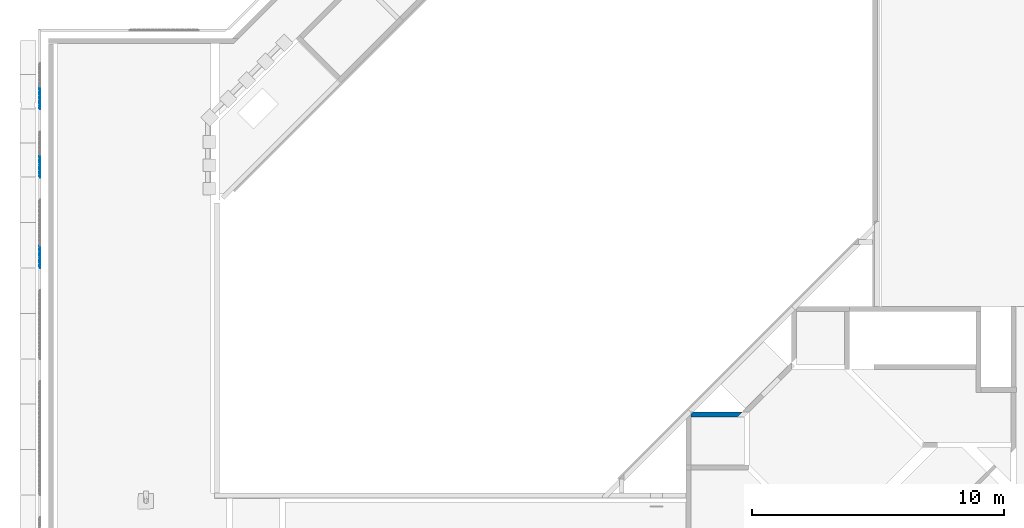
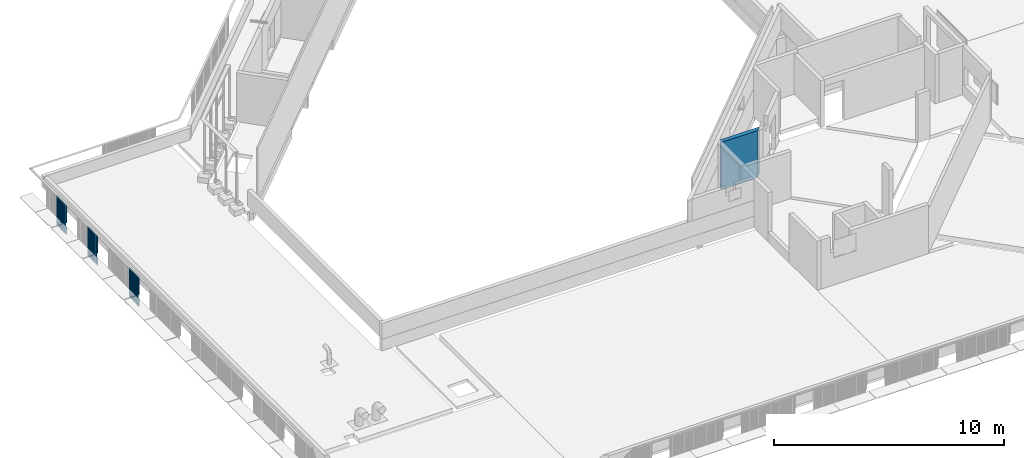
# One storey, part 24 of 37: 4 walls.
"""IFC4X3_ADD2 building model written with IfcOpenShell, lengths in millimetres."""

from ifc_helpers import new_model, si_unit, direction, frame, origin_with_axes, place, context, subcontext, project, spatial, polygons, element, save


model = new_model("IFC4X3_ADD2")

# Units and contexts
model_context = context("Model", 3, precision=1e-05, world=origin_with_axes(), true_north=direction((0.0, 1.0)))
body_context = subcontext(model_context, "Body", "Model", "MODEL_VIEW")
ifc_project = project(units=[si_unit("LENGTHUNIT", "METRE", prefix="MILLI"), si_unit("AREAUNIT", "SQUARE_METRE"), si_unit("VOLUMEUNIT", "CUBIC_METRE"), si_unit("PLANEANGLEUNIT", "RADIAN"), si_unit("TIMEUNIT", "SECOND"), si_unit("MASSUNIT", "GRAM")], contexts=[model_context])

# Site, building, storey
site_placement = place(None, origin_with_axes())
site = spatial("IfcSite", under=ifc_project, at=site_placement, Name="Site", CompositionType="ELEMENT")
building_placement = place(site_placement, origin_with_axes())
building = spatial("IfcBuilding", under=site, at=building_placement, Name="IFC Building Story")
storey_placement = place(building_placement, frame((0.0, 0.0, 14400.0), z_axis=(0.0, 0.0, 1.0), x_axis=(1.0, 0.0, 0.0)))
storey = spatial("IfcBuildingStorey", under=building, at=storey_placement, Name="040", Elevation=14400.0)

# Walls
wall_1_placement = place(storey_placement, frame((0.0, 0.0, -14400.0), z_axis=(0.0, 0.0, 1.0), x_axis=(1.0, 0.0, 0.0)))
element("IfcWall", 1, at=wall_1_placement, inside=storey, Name="Basic Wall:BB_XX_Wand uit beton, 200 mm", ObjectType="Basic Wall:BB_XX_Wand uit beton, 200 mm", PredefinedType="SOLIDWALL", context=body_context, shape_type="Tessellation", body=[
    polygons([(-19900.0, 15715.0, 14200.0), (-18068.70057685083, 15715.0, 14200.0), (-18068.70057685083, 15715.0, 14800.0), (-18068.70057685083, 15715.0, 16700.0), (-19900.0, 15715.0, 16700.0), (-17868.70057685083, 15915.0, 14200.0), (-19820.94776063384, 15915.0, 14200.0), (-19820.94776063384, 15915.0, 16700.0), (-17868.70057685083, 15915.0, 16700.0), (-19900.0, 15835.94776063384, 14200.0), (-19900.0, 15835.94776063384, 16700.0)], [[[3, 4, 5]], [[3, 5, 1]], [[1, 2, 3]], [[6, 7, 8, 9]], [[2, 1, 10]], [[2, 10, 7]], [[2, 7, 6]], [[10, 1, 5, 11]], [[5, 4, 9]], [[5, 9, 8]], [[5, 8, 11]], [[7, 10, 11, 8]], [[3, 2, 6]], [[6, 9, 4]], [[6, 4, 3]]]),
])
wall_2_placement = place(storey_placement, frame((0.0, 0.0, -14400.0), z_axis=(0.0, 0.0, 1.0), x_axis=(1.0, 0.0, 0.0)))
element("IfcWall", 2, at=wall_2_placement, inside=storey, Name="BB_07.10_Gevelbekleding_PuntProfiel, 900 mm, console rechts_GMO:900 x 1600 mm", ObjectType="BB_07.10_Gevelbekleding_PuntProfiel, 900 mm, console rechts_GMO:900 x 1600 mm", PredefinedType="NOTDEFINED", context=body_context, shape_type="Tessellation", body=[
    polygons([(-45734.99999999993, 21690.00000000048, 14060.0), (-45733.58578643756, 21690.00000000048, 14060.0), (-45748.58578643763, 21675.00000000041, 14060.0), (-45715.0, 21641.41421356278, 14060.0), (-45715.0, 21618.5857864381, 14060.0), (-45716.0, 21619.00000000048, 14060.0), (-45716.0, 21641.0000000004, 14060.0), (-45750.0, 21675.00000000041, 14060.0), (-45734.99999999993, 21690.00000000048, 13860.0), (-45733.58578643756, 21690.00000000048, 13860.0), (-45750.0, 21675.00000000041, 13860.0), (-45716.0, 21641.0000000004, 13860.0), (-45716.0, 21619.00000000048, 13860.0), (-45715.0, 21618.5857864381, 13860.0), (-45715.0, 21641.41421356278, 13860.0), (-45748.58578643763, 21675.00000000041, 13860.0), (-45716.0, 22451.00000000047, 15040.0), (-45716.0, 22429.00000000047, 15040.0), (-45750.0, 22395.00000000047, 15040.0), (-45716.0, 22361.00000000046, 15040.0), (-45716.0, 22339.00000000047, 15040.0), (-45750.0, 22305.00000000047, 15040.0), (-45716.0, 22271.00000000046, 15040.0), (-45716.0, 22249.00000000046, 15040.0), (-45750.00000000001, 22215.00000000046, 15040.0), (-45716.0, 22181.00000000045, 15040.0), (-45716.0, 22159.00000000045, 15040.0), (-45750.00000000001, 22125.00000000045, 15040.0), (-45716.0, 22091.00000000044, 15040.0), (-45716.0, 22069.00000000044, 15040.0), (-45750.00000000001, 22035.00000000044, 15040.0), (-45716.0, 22001.00000000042, 15040.0), (-45716.0, 21979.00000000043, 15040.0), (-45750.00000000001, 21945.00000000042, 15040.0), (-45716.0, 21911.00000000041, 15040.0), (-45716.0, 21889.00000000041, 15040.0), (-45750.00000000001, 21855.00000000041, 15040.0), (-45716.0, 21821.0000000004, 15040.0), (-45716.0, 21799.00000000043, 15040.0), (-45750.00000000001, 21765.00000000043, 15040.0), (-45716.0, 21731.00000000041, 15040.0), (-45716.0, 21709.00000000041, 15040.0), (-45750.00000000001, 21675.00000000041, 15040.0), (-45716.0, 21641.0000000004, 15040.0), (-45716.0, 21619.00000000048, 15040.0), (-45715.0, 21618.5857864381, 15040.0), (-45715.0, 21641.41421356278, 15040.0), (-45748.58578643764, 21675.00000000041, 15040.0), (-45715.0, 21708.58578643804, 15040.0), (-45715.0, 21731.4142135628, 15040.0), (-45748.58578643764, 21765.00000000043, 15040.0), (-45715.0, 21798.58578643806, 15040.0), (-45715.0, 21821.41421356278, 15040.0), (-45748.58578643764, 21855.00000000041, 15040.0), (-45715.0, 21888.58578643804, 15040.0), (-45715.0, 21911.4142135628, 15040.0), (-45748.58578643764, 21945.00000000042, 15040.0), (-45715.0, 21978.58578643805, 15040.0), (-45715.0, 22001.41421356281, 15040.0), (-45748.58578643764, 22035.00000000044, 15040.0), (-45715.0, 22068.58578643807, 15040.0), (-45715.0, 22091.41421356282, 15040.0), (-45748.58578643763, 22125.00000000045, 15040.0), (-45715.0, 22158.58578643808, 15040.0), (-45715.0, 22181.41421356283, 15040.0), (-45748.58578643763, 22215.00000000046, 15040.0), (-45715.0, 22248.58578643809, 15040.0), (-45715.0, 22271.41421356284, 15040.0), (-45748.58578643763, 22305.00000000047, 15040.0), (-45715.0, 22338.58578643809, 15040.0), (-45715.0, 22361.41421356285, 15040.0), (-45748.58578643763, 22395.00000000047, 15040.0), (-45715.0, 22428.5857864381, 15040.0), (-45715.0, 22451.41421356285, 15040.0), (-45748.58578643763, 22485.00000000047, 15040.0), (-45715.0, 22518.5857864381, 15040.0), (-45715.0, 22541.41421356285, 15040.0), (-45716.0, 22541.00000000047, 15040.0), (-45716.0, 22519.00000000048, 15040.0), (-45750.0, 22485.00000000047, 15040.0), (-45716.0, 22451.00000000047, 13440.0), (-45750.0, 22485.00000000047, 13440.0), (-45716.0, 22519.00000000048, 13440.0), (-45716.0, 22541.00000000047, 13440.0), (-45715.0, 22541.41421356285, 13440.0), (-45715.0, 22518.5857864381, 13440.0), (-45748.58578643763, 22485.00000000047, 13440.0), (-45715.0, 22451.41421356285, 13440.0), (-45715.0, 22428.5857864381, 13440.0), (-45748.58578643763, 22395.00000000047, 13440.0), (-45715.0, 22361.41421356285, 13440.0), (-45715.0, 22338.58578643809, 13440.0), (-45748.58578643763, 22305.00000000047, 13440.0), (-45715.0, 22271.41421356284, 13440.0), (-45715.0, 22248.58578643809, 13440.0), (-45748.58578643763, 22215.00000000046, 13440.0), (-45715.0, 22181.41421356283, 13440.0), (-45715.0, 22158.58578643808, 13440.0), (-45748.58578643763, 22125.00000000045, 13440.0), (-45715.0, 22091.41421356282, 13440.0), (-45715.0, 22068.58578643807, 13440.0), (-45748.58578643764, 22035.00000000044, 13440.0), (-45715.0, 22001.41421356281, 13440.0), (-45715.0, 21978.58578643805, 13440.0), (-45748.58578643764, 21945.00000000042, 13440.0), (-45715.0, 21911.4142135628, 13440.0), (-45715.0, 21888.58578643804, 13440.0), (-45748.58578643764, 21855.00000000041, 13440.0), (-45715.0, 21821.41421356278, 13440.0), (-45715.0, 21798.58578643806, 13440.0), (-45748.58578643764, 21765.00000000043, 13440.0), (-45715.0, 21731.4142135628, 13440.0), (-45715.0, 21708.58578643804, 13440.0), (-45748.58578643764, 21675.00000000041, 13440.0), (-45715.0, 21641.41421356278, 13440.0), (-45715.0, 21618.5857864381, 13440.0), (-45716.0, 21619.00000000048, 13440.0), (-45716.0, 21641.0000000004, 13440.0), (-45750.00000000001, 21675.00000000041, 13440.0), (-45716.0, 21709.00000000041, 13440.0), (-45716.0, 21731.00000000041, 13440.0), (-45750.00000000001, 21765.00000000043, 13440.0), (-45716.0, 21799.00000000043, 13440.0), (-45716.0, 21821.0000000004, 13440.0), (-45750.00000000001, 21855.00000000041, 13440.0), (-45716.0, 21889.00000000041, 13440.0), (-45716.0, 21911.00000000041, 13440.0), (-45750.00000000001, 21945.00000000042, 13440.0), (-45716.0, 21979.00000000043, 13440.0), (-45716.0, 22001.00000000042, 13440.0), (-45750.00000000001, 22035.00000000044, 13440.0), (-45716.0, 22069.00000000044, 13440.0), (-45716.0, 22091.00000000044, 13440.0), (-45750.00000000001, 22125.00000000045, 13440.0), (-45716.0, 22159.00000000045, 13440.0), (-45716.0, 22181.00000000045, 13440.0), (-45750.00000000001, 22215.00000000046, 13440.0), (-45716.0, 22249.00000000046, 13440.0), (-45716.0, 22271.00000000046, 13440.0), (-45750.0, 22305.00000000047, 13440.0), (-45716.0, 22339.00000000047, 13440.0), (-45716.0, 22361.00000000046, 13440.0), (-45750.0, 22395.00000000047, 13440.0), (-45716.0, 22429.00000000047, 13440.0)], [[[7, 8, 3]], [[7, 3, 4]], [[4, 5, 6]], [[4, 6, 7]], [[8, 1, 2]], [[8, 2, 3]], [[2, 1, 9, 10]], [[12, 13, 14]], [[12, 14, 15]], [[16, 10, 9]], [[16, 9, 11]], [[11, 12, 15]], [[11, 15, 16]], [[44, 45, 46]], [[44, 46, 47]], [[48, 49, 42]], [[48, 42, 43]], [[43, 44, 47]], [[43, 47, 48]], [[49, 50, 41]], [[49, 41, 42]], [[51, 52, 39]], [[51, 39, 40]], [[40, 41, 50]], [[40, 50, 51]], [[52, 53, 38]], [[52, 38, 39]], [[54, 55, 36]], [[54, 36, 37]], [[37, 38, 53]], [[37, 53, 54]], [[55, 56, 35]], [[55, 35, 36]], [[57, 58, 33]], [[57, 33, 34]], [[34, 35, 56]], [[34, 56, 57]], [[58, 59, 32]], [[58, 32, 33]], [[60, 61, 30]], [[60, 30, 31]], [[31, 32, 59]], [[31, 59, 60]], [[61, 62, 29]], [[61, 29, 30]], [[63, 64, 27]], [[63, 27, 28]], [[28, 29, 62]], [[28, 62, 63]], [[64, 65, 26]], [[64, 26, 27]], [[66, 67, 24]], [[66, 24, 25]], [[25, 26, 65]], [[25, 65, 66]], [[67, 68, 23]], [[67, 23, 24]], [[69, 70, 21]], [[69, 21, 22]], [[22, 23, 68]], [[22, 68, 69]], [[70, 71, 20]], [[70, 20, 21]], [[72, 73, 18]], [[72, 18, 19]], [[19, 20, 71]], [[19, 71, 72]], [[73, 74, 17]], [[73, 17, 18]], [[79, 80, 75]], [[79, 75, 76]], [[76, 77, 78]], [[76, 78, 79]], [[80, 17, 74]], [[80, 74, 75]], [[83, 84, 85]], [[83, 85, 86]], [[87, 88, 81]], [[87, 81, 82]], [[82, 83, 86]], [[82, 86, 87]], [[118, 119, 114]], [[118, 114, 115]], [[115, 116, 117]], [[115, 117, 118]], [[121, 122, 111]], [[121, 111, 112]], [[112, 113, 120]], [[112, 120, 121]], [[113, 114, 119]], [[113, 119, 120]], [[124, 125, 108]], [[124, 108, 109]], [[109, 110, 123]], [[109, 123, 124]], [[110, 111, 122]], [[110, 122, 123]], [[127, 128, 105]], [[127, 105, 106]], [[106, 107, 126]], [[106, 126, 127]], [[107, 108, 125]], [[107, 125, 126]], [[130, 131, 102]], [[130, 102, 103]], [[103, 104, 129]], [[103, 129, 130]], [[104, 105, 128]], [[104, 128, 129]], [[133, 134, 99]], [[133, 99, 100]], [[100, 101, 132]], [[100, 132, 133]], [[101, 102, 131]], [[101, 131, 132]], [[136, 137, 96]], [[136, 96, 97]], [[97, 98, 135]], [[97, 135, 136]], [[98, 99, 134]], [[98, 134, 135]], [[139, 140, 93]], [[139, 93, 94]], [[94, 95, 138]], [[94, 138, 139]], [[95, 96, 137]], [[95, 137, 138]], [[142, 143, 90]], [[142, 90, 91]], [[91, 92, 141]], [[91, 141, 142]], [[92, 93, 140]], [[92, 140, 141]], [[144, 81, 88]], [[144, 88, 89]], [[89, 90, 143]], [[89, 143, 144]], [[18, 17, 81, 144]], [[19, 18, 144, 143]], [[20, 19, 143, 142]], [[21, 20, 142, 141]], [[22, 21, 141, 140]], [[23, 22, 140, 139]], [[24, 23, 139, 138]], [[25, 24, 138, 137]], [[26, 25, 137, 136]], [[27, 26, 136, 135]], [[28, 27, 135, 134]], [[29, 28, 134, 133]], [[30, 29, 133, 132]], [[31, 30, 132, 131]], [[32, 31, 131, 130]], [[33, 32, 130, 129]], [[34, 33, 129, 128]], [[35, 34, 128, 127]], [[36, 35, 127, 126]], [[37, 36, 126, 125]], [[38, 37, 125, 124]], [[54, 53, 109, 108]], [[55, 54, 108, 107]], [[56, 55, 107, 106]], [[57, 56, 106, 105]], [[58, 57, 105, 104]], [[59, 58, 104, 103]], [[60, 59, 103, 102]], [[61, 60, 102, 101]], [[62, 61, 101, 100]], [[63, 62, 100, 99]], [[64, 63, 99, 98]], [[65, 64, 98, 97]], [[66, 65, 97, 96]], [[67, 66, 96, 95]], [[68, 67, 95, 94]], [[69, 68, 94, 93]], [[70, 69, 93, 92]], [[71, 70, 92, 91]], [[72, 71, 91, 90]], [[73, 72, 90, 89]], [[74, 73, 89, 88]], [[80, 79, 83, 82]], [[17, 80, 82, 81]], [[39, 38, 124, 123]], [[40, 39, 123, 122]], [[41, 40, 122, 121]], [[42, 41, 121, 120]], [[1, 8, 43]], [[1, 43, 42]], [[42, 9, 1]], [[42, 120, 9]], [[120, 119, 11]], [[120, 11, 9]], [[44, 43, 8, 7]], [[45, 44, 7, 6]], [[47, 46, 5, 4]], [[48, 47, 4, 3]], [[10, 16, 114]], [[10, 114, 113]], [[113, 2, 10]], [[2, 113, 49]], [[49, 48, 2]], [[48, 3, 2]], [[50, 49, 113, 112]], [[51, 50, 112, 111]], [[52, 51, 111, 110]], [[53, 52, 110, 109]], [[75, 74, 88, 87]], [[76, 75, 87, 86]], [[46, 45, 6, 5]], [[77, 76, 86, 85]], [[78, 77, 85, 84]], [[79, 78, 84, 83]], [[117, 116, 14, 13]], [[115, 114, 16, 15]], [[116, 115, 15, 14]], [[118, 117, 13, 12]], [[119, 118, 12, 11]]]),
])
wall_3_placement = place(storey_placement, frame((0.0, 0.0, -14400.0), z_axis=(0.0, 0.0, 1.0), x_axis=(1.0, 0.0, 0.0)))
element("IfcWall", 3, at=wall_3_placement, inside=storey, Name="BB_07.10_Gevelbekleding_PuntProfiel, 900 mm, console rechts_GMO:900 x 1600 mm", ObjectType="BB_07.10_Gevelbekleding_PuntProfiel, 900 mm, console rechts_GMO:900 x 1600 mm", PredefinedType="NOTDEFINED", context=body_context, shape_type="Tessellation", body=[
    polygons([(-45734.99999999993, 25290.00000000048, 14060.0), (-45733.58578643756, 25290.00000000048, 14060.0), (-45748.58578643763, 25275.00000000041, 14060.0), (-45715.0, 25241.41421356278, 14060.0), (-45715.0, 25218.5857864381, 14060.0), (-45716.0, 25219.00000000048, 14060.0), (-45716.0, 25241.0000000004, 14060.0), (-45750.0, 25275.00000000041, 14060.0), (-45734.99999999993, 25290.00000000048, 13860.0), (-45733.58578643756, 25290.00000000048, 13860.0), (-45750.0, 25275.00000000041, 13860.0), (-45716.0, 25241.0000000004, 13860.0), (-45716.0, 25219.00000000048, 13860.0), (-45715.0, 25218.5857864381, 13860.0), (-45715.0, 25241.41421356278, 13860.0), (-45748.58578643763, 25275.00000000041, 13860.0), (-45716.0, 26051.00000000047, 15040.0), (-45716.0, 26029.00000000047, 15040.0), (-45750.0, 25995.00000000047, 15040.0), (-45716.0, 25961.00000000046, 15040.0), (-45716.0, 25939.00000000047, 15040.0), (-45750.0, 25905.00000000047, 15040.0), (-45716.0, 25871.00000000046, 15040.0), (-45716.0, 25849.00000000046, 15040.0), (-45750.00000000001, 25815.00000000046, 15040.0), (-45716.0, 25781.00000000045, 15040.0), (-45716.0, 25759.00000000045, 15040.0), (-45750.00000000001, 25725.00000000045, 15040.0), (-45716.0, 25691.00000000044, 15040.0), (-45716.0, 25669.00000000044, 15040.0), (-45750.00000000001, 25635.00000000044, 15040.0), (-45716.0, 25601.00000000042, 15040.0), (-45716.0, 25579.00000000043, 15040.0), (-45750.00000000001, 25545.00000000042, 15040.0), (-45716.0, 25511.00000000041, 15040.0), (-45716.0, 25489.00000000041, 15040.0), (-45750.00000000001, 25455.00000000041, 15040.0), (-45716.0, 25421.0000000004, 15040.0), (-45716.0, 25399.00000000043, 15040.0), (-45750.00000000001, 25365.00000000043, 15040.0), (-45716.0, 25331.00000000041, 15040.0), (-45716.0, 25309.00000000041, 15040.0), (-45750.00000000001, 25275.00000000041, 15040.0), (-45716.0, 25241.0000000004, 15040.0), (-45716.0, 25219.00000000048, 15040.0), (-45715.0, 25218.5857864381, 15040.0), (-45715.0, 25241.41421356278, 15040.0), (-45748.58578643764, 25275.00000000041, 15040.0), (-45715.0, 25308.58578643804, 15040.0), (-45715.0, 25331.4142135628, 15040.0), (-45748.58578643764, 25365.00000000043, 15040.0), (-45715.0, 25398.58578643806, 15040.0), (-45715.0, 25421.41421356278, 15040.0), (-45748.58578643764, 25455.00000000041, 15040.0), (-45715.0, 25488.58578643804, 15040.0), (-45715.0, 25511.4142135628, 15040.0), (-45748.58578643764, 25545.00000000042, 15040.0), (-45715.0, 25578.58578643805, 15040.0), (-45715.0, 25601.41421356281, 15040.0), (-45748.58578643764, 25635.00000000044, 15040.0), (-45715.0, 25668.58578643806, 15040.0), (-45715.0, 25691.41421356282, 15040.0), (-45748.58578643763, 25725.00000000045, 15040.0), (-45715.0, 25758.58578643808, 15040.0), (-45715.0, 25781.41421356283, 15040.0), (-45748.58578643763, 25815.00000000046, 15040.0), (-45715.0, 25848.58578643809, 15040.0), (-45715.0, 25871.41421356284, 15040.0), (-45748.58578643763, 25905.00000000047, 15040.0), (-45715.0, 25938.58578643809, 15040.0), (-45715.0, 25961.41421356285, 15040.0), (-45748.58578643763, 25995.00000000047, 15040.0), (-45715.0, 26028.5857864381, 15040.0), (-45715.0, 26051.41421356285, 15040.0), (-45748.58578643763, 26085.00000000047, 15040.0), (-45715.0, 26118.5857864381, 15040.0), (-45715.0, 26141.41421356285, 15040.0), (-45716.0, 26141.00000000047, 15040.0), (-45716.0, 26119.00000000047, 15040.0), (-45750.0, 26085.00000000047, 15040.0), (-45716.0, 26051.00000000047, 13440.0), (-45750.0, 26085.00000000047, 13440.0), (-45716.0, 26119.00000000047, 13440.0), (-45716.0, 26141.00000000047, 13440.0), (-45715.0, 26141.41421356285, 13440.0), (-45715.0, 26118.5857864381, 13440.0), (-45748.58578643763, 26085.00000000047, 13440.0), (-45715.0, 26051.41421356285, 13440.0), (-45715.0, 26028.5857864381, 13440.0), (-45748.58578643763, 25995.00000000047, 13440.0), (-45715.0, 25961.41421356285, 13440.0), (-45715.0, 25938.58578643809, 13440.0), (-45748.58578643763, 25905.00000000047, 13440.0), (-45715.0, 25871.41421356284, 13440.0), (-45715.0, 25848.58578643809, 13440.0), (-45748.58578643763, 25815.00000000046, 13440.0), (-45715.0, 25781.41421356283, 13440.0), (-45715.0, 25758.58578643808, 13440.0), (-45748.58578643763, 25725.00000000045, 13440.0), (-45715.0, 25691.41421356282, 13440.0), (-45715.0, 25668.58578643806, 13440.0), (-45748.58578643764, 25635.00000000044, 13440.0), (-45715.0, 25601.41421356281, 13440.0), (-45715.0, 25578.58578643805, 13440.0), (-45748.58578643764, 25545.00000000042, 13440.0), (-45715.0, 25511.4142135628, 13440.0), (-45715.0, 25488.58578643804, 13440.0), (-45748.58578643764, 25455.00000000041, 13440.0), (-45715.0, 25421.41421356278, 13440.0), (-45715.0, 25398.58578643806, 13440.0), (-45748.58578643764, 25365.00000000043, 13440.0), (-45715.0, 25331.4142135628, 13440.0), (-45715.0, 25308.58578643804, 13440.0), (-45748.58578643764, 25275.00000000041, 13440.0), (-45715.0, 25241.41421356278, 13440.0), (-45715.0, 25218.5857864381, 13440.0), (-45716.0, 25219.00000000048, 13440.0), (-45716.0, 25241.0000000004, 13440.0), (-45750.00000000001, 25275.00000000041, 13440.0), (-45716.0, 25309.00000000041, 13440.0), (-45716.0, 25331.00000000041, 13440.0), (-45750.00000000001, 25365.00000000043, 13440.0), (-45716.0, 25399.00000000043, 13440.0), (-45716.0, 25421.0000000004, 13440.0), (-45750.00000000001, 25455.00000000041, 13440.0), (-45716.0, 25489.00000000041, 13440.0), (-45716.0, 25511.00000000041, 13440.0), (-45750.00000000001, 25545.00000000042, 13440.0), (-45716.0, 25579.00000000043, 13440.0), (-45716.0, 25601.00000000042, 13440.0), (-45750.00000000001, 25635.00000000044, 13440.0), (-45716.0, 25669.00000000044, 13440.0), (-45716.0, 25691.00000000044, 13440.0), (-45750.00000000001, 25725.00000000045, 13440.0), (-45716.0, 25759.00000000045, 13440.0), (-45716.0, 25781.00000000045, 13440.0), (-45750.00000000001, 25815.00000000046, 13440.0), (-45716.0, 25849.00000000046, 13440.0), (-45716.0, 25871.00000000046, 13440.0), (-45750.0, 25905.00000000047, 13440.0), (-45716.0, 25939.00000000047, 13440.0), (-45716.0, 25961.00000000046, 13440.0), (-45750.0, 25995.00000000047, 13440.0), (-45716.0, 26029.00000000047, 13440.0)], [[[7, 8, 3]], [[7, 3, 4]], [[4, 5, 6]], [[4, 6, 7]], [[8, 1, 2]], [[8, 2, 3]], [[2, 1, 9, 10]], [[12, 13, 14]], [[12, 14, 15]], [[16, 10, 9]], [[16, 9, 11]], [[11, 12, 15]], [[11, 15, 16]], [[44, 45, 46]], [[44, 46, 47]], [[48, 49, 42]], [[48, 42, 43]], [[43, 44, 47]], [[43, 47, 48]], [[49, 50, 41]], [[49, 41, 42]], [[51, 52, 39]], [[51, 39, 40]], [[40, 41, 50]], [[40, 50, 51]], [[52, 53, 38]], [[52, 38, 39]], [[54, 55, 36]], [[54, 36, 37]], [[37, 38, 53]], [[37, 53, 54]], [[55, 56, 35]], [[55, 35, 36]], [[57, 58, 33]], [[57, 33, 34]], [[34, 35, 56]], [[34, 56, 57]], [[58, 59, 32]], [[58, 32, 33]], [[60, 61, 30]], [[60, 30, 31]], [[31, 32, 59]], [[31, 59, 60]], [[61, 62, 29]], [[61, 29, 30]], [[63, 64, 27]], [[63, 27, 28]], [[28, 29, 62]], [[28, 62, 63]], [[64, 65, 26]], [[64, 26, 27]], [[66, 67, 24]], [[66, 24, 25]], [[25, 26, 65]], [[25, 65, 66]], [[67, 68, 23]], [[67, 23, 24]], [[69, 70, 21]], [[69, 21, 22]], [[22, 23, 68]], [[22, 68, 69]], [[70, 71, 20]], [[70, 20, 21]], [[72, 73, 18]], [[72, 18, 19]], [[19, 20, 71]], [[19, 71, 72]], [[73, 74, 17]], [[73, 17, 18]], [[79, 80, 75]], [[79, 75, 76]], [[76, 77, 78]], [[76, 78, 79]], [[80, 17, 74]], [[80, 74, 75]], [[83, 84, 85]], [[83, 85, 86]], [[87, 88, 81]], [[87, 81, 82]], [[82, 83, 86]], [[82, 86, 87]], [[118, 119, 114]], [[118, 114, 115]], [[115, 116, 117]], [[115, 117, 118]], [[121, 122, 111]], [[121, 111, 112]], [[112, 113, 120]], [[112, 120, 121]], [[113, 114, 119]], [[113, 119, 120]], [[124, 125, 108]], [[124, 108, 109]], [[109, 110, 123]], [[109, 123, 124]], [[110, 111, 122]], [[110, 122, 123]], [[127, 128, 105]], [[127, 105, 106]], [[106, 107, 126]], [[106, 126, 127]], [[107, 108, 125]], [[107, 125, 126]], [[130, 131, 102]], [[130, 102, 103]], [[103, 104, 129]], [[103, 129, 130]], [[104, 105, 128]], [[104, 128, 129]], [[133, 134, 99]], [[133, 99, 100]], [[100, 101, 132]], [[100, 132, 133]], [[101, 102, 131]], [[101, 131, 132]], [[136, 137, 96]], [[136, 96, 97]], [[97, 98, 135]], [[97, 135, 136]], [[98, 99, 134]], [[98, 134, 135]], [[139, 140, 93]], [[139, 93, 94]], [[94, 95, 138]], [[94, 138, 139]], [[95, 96, 137]], [[95, 137, 138]], [[142, 143, 90]], [[142, 90, 91]], [[91, 92, 141]], [[91, 141, 142]], [[92, 93, 140]], [[92, 140, 141]], [[144, 81, 88]], [[144, 88, 89]], [[89, 90, 143]], [[89, 143, 144]], [[18, 17, 81, 144]], [[19, 18, 144, 143]], [[20, 19, 143, 142]], [[21, 20, 142, 141]], [[22, 21, 141, 140]], [[23, 22, 140, 139]], [[24, 23, 139, 138]], [[25, 24, 138, 137]], [[26, 25, 137, 136]], [[27, 26, 136, 135]], [[28, 27, 135, 134]], [[29, 28, 134, 133]], [[30, 29, 133, 132]], [[31, 30, 132, 131]], [[32, 31, 131, 130]], [[33, 32, 130, 129]], [[34, 33, 129, 128]], [[35, 34, 128, 127]], [[36, 35, 127, 126]], [[37, 36, 126, 125]], [[38, 37, 125, 124]], [[54, 53, 109, 108]], [[55, 54, 108, 107]], [[56, 55, 107, 106]], [[57, 56, 106, 105]], [[58, 57, 105, 104]], [[59, 58, 104, 103]], [[60, 59, 103, 102]], [[61, 60, 102, 101]], [[62, 61, 101, 100]], [[63, 62, 100, 99]], [[64, 63, 99, 98]], [[65, 64, 98, 97]], [[66, 65, 97, 96]], [[67, 66, 96, 95]], [[68, 67, 95, 94]], [[69, 68, 94, 93]], [[70, 69, 93, 92]], [[71, 70, 92, 91]], [[72, 71, 91, 90]], [[73, 72, 90, 89]], [[74, 73, 89, 88]], [[80, 79, 83, 82]], [[17, 80, 82, 81]], [[39, 38, 124, 123]], [[40, 39, 123, 122]], [[41, 40, 122, 121]], [[42, 41, 121, 120]], [[1, 8, 43]], [[1, 43, 42]], [[42, 9, 1]], [[42, 120, 9]], [[120, 119, 11]], [[120, 11, 9]], [[44, 43, 8, 7]], [[45, 44, 7, 6]], [[47, 46, 5, 4]], [[48, 47, 4, 3]], [[10, 16, 114]], [[10, 114, 113]], [[113, 2, 10]], [[2, 113, 49]], [[49, 48, 2]], [[48, 3, 2]], [[50, 49, 113, 112]], [[51, 50, 112, 111]], [[52, 51, 111, 110]], [[53, 52, 110, 109]], [[75, 74, 88, 87]], [[76, 75, 87, 86]], [[46, 45, 6, 5]], [[77, 76, 86, 85]], [[78, 77, 85, 84]], [[79, 78, 84, 83]], [[117, 116, 14, 13]], [[115, 114, 16, 15]], [[116, 115, 15, 14]], [[118, 117, 13, 12]], [[119, 118, 12, 11]]]),
])
wall_4_placement = place(storey_placement, frame((0.0, 0.0, -14400.0), z_axis=(0.0, 0.0, 1.0), x_axis=(1.0, 0.0, 0.0)))
element("IfcWall", 4, at=wall_4_placement, inside=storey, Name="BB_07.10_Gevelbekleding_PuntProfiel, 900 mm, console rechts_GMO:900 x 1600 mm", ObjectType="BB_07.10_Gevelbekleding_PuntProfiel, 900 mm, console rechts_GMO:900 x 1600 mm", PredefinedType="NOTDEFINED", context=body_context, shape_type="Tessellation", body=[
    polygons([(-45734.99999999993, 27990.00000000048, 14060.0), (-45733.58578643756, 27990.00000000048, 14060.0), (-45748.58578643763, 27975.00000000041, 14060.0), (-45715.0, 27941.41421356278, 14060.0), (-45715.0, 27918.5857864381, 14060.0), (-45716.0, 27919.00000000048, 14060.0), (-45716.0, 27941.0000000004, 14060.0), (-45750.00000000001, 27975.00000000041, 14060.0), (-45734.99999999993, 27990.00000000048, 13860.0), (-45733.58578643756, 27990.00000000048, 13860.0), (-45750.0, 27975.00000000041, 13860.0), (-45715.99999999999, 27941.0000000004, 13860.0), (-45716.0, 27919.00000000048, 13860.0), (-45715.0, 27918.5857864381, 13860.0), (-45715.0, 27941.41421356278, 13860.0), (-45748.58578643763, 27975.00000000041, 13860.0), (-45716.0, 28751.00000000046, 15040.0), (-45716.0, 28729.00000000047, 15040.0), (-45750.0, 28695.00000000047, 15040.0), (-45716.0, 28661.00000000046, 15040.0), (-45716.0, 28639.00000000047, 15040.0), (-45750.0, 28605.00000000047, 15040.0), (-45716.0, 28571.00000000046, 15040.0), (-45716.0, 28549.00000000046, 15040.0), (-45750.00000000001, 28515.00000000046, 15040.0), (-45716.0, 28481.00000000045, 15040.0), (-45716.0, 28459.00000000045, 15040.0), (-45750.00000000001, 28425.00000000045, 15040.0), (-45716.0, 28391.00000000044, 15040.0), (-45716.0, 28369.00000000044, 15040.0), (-45750.00000000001, 28335.00000000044, 15040.0), (-45716.0, 28301.00000000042, 15040.0), (-45716.0, 28279.00000000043, 15040.0), (-45750.00000000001, 28245.00000000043, 15040.0), (-45716.0, 28211.00000000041, 15040.0), (-45716.0, 28189.00000000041, 15040.0), (-45750.00000000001, 28155.00000000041, 15040.0), (-45716.0, 28121.0000000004, 15040.0), (-45716.0, 28099.00000000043, 15040.0), (-45750.00000000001, 28065.00000000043, 15040.0), (-45716.0, 28031.00000000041, 15040.0), (-45716.0, 28009.00000000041, 15040.0), (-45750.00000000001, 27975.00000000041, 15040.0), (-45716.0, 27941.0000000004, 15040.0), (-45716.0, 27919.00000000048, 15040.0), (-45715.00000000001, 27918.5857864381, 15040.0), (-45715.00000000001, 27941.41421356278, 15040.0), (-45748.58578643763, 27975.00000000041, 15040.0), (-45715.00000000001, 28008.58578643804, 15040.0), (-45715.00000000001, 28031.4142135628, 15040.0), (-45748.58578643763, 28065.00000000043, 15040.0), (-45715.00000000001, 28098.58578643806, 15040.0), (-45715.00000000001, 28121.41421356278, 15040.0), (-45748.58578643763, 28155.00000000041, 15040.0), (-45715.00000000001, 28188.58578643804, 15040.0), (-45715.00000000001, 28211.4142135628, 15040.0), (-45748.58578643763, 28245.00000000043, 15040.0), (-45715.00000000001, 28278.58578643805, 15040.0), (-45715.00000000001, 28301.41421356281, 15040.0), (-45748.58578643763, 28335.00000000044, 15040.0), (-45715.00000000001, 28368.58578643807, 15040.0), (-45715.00000000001, 28391.41421356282, 15040.0), (-45748.58578643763, 28425.00000000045, 15040.0), (-45715.00000000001, 28458.58578643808, 15040.0), (-45715.00000000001, 28481.41421356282, 15040.0), (-45748.58578643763, 28515.00000000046, 15040.0), (-45715.00000000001, 28548.58578643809, 15040.0), (-45715.00000000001, 28571.41421356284, 15040.0), (-45748.58578643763, 28605.00000000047, 15040.0), (-45715.0, 28638.58578643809, 15040.0), (-45715.0, 28661.41421356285, 15040.0), (-45748.58578643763, 28695.00000000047, 15040.0), (-45715.0, 28728.5857864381, 15040.0), (-45715.0, 28751.41421356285, 15040.0), (-45748.58578643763, 28785.00000000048, 15040.0), (-45715.0, 28818.5857864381, 15040.0), (-45715.0, 28841.41421356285, 15040.0), (-45716.0, 28841.00000000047, 15040.0), (-45716.0, 28819.00000000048, 15040.0), (-45750.0, 28785.00000000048, 15040.0), (-45716.0, 28751.00000000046, 13440.0), (-45750.0, 28785.00000000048, 13440.0), (-45716.0, 28819.00000000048, 13440.0), (-45716.0, 28841.00000000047, 13440.0), (-45715.0, 28841.41421356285, 13440.0), (-45715.0, 28818.5857864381, 13440.0), (-45748.58578643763, 28785.00000000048, 13440.0), (-45715.0, 28751.41421356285, 13440.0), (-45715.0, 28728.5857864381, 13440.0), (-45748.58578643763, 28695.00000000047, 13440.0), (-45715.0, 28661.41421356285, 13440.0), (-45715.0, 28638.58578643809, 13440.0), (-45748.58578643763, 28605.00000000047, 13440.0), (-45715.00000000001, 28571.41421356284, 13440.0), (-45715.00000000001, 28548.58578643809, 13440.0), (-45748.58578643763, 28515.00000000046, 13440.0), (-45715.00000000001, 28481.41421356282, 13440.0), (-45715.00000000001, 28458.58578643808, 13440.0), (-45748.58578643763, 28425.00000000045, 13440.0), (-45715.00000000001, 28391.41421356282, 13440.0), (-45715.00000000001, 28368.58578643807, 13440.0), (-45748.58578643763, 28335.00000000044, 13440.0), (-45715.00000000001, 28301.41421356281, 13440.0), (-45715.00000000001, 28278.58578643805, 13440.0), (-45748.58578643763, 28245.00000000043, 13440.0), (-45715.00000000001, 28211.4142135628, 13440.0), (-45715.00000000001, 28188.58578643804, 13440.0), (-45748.58578643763, 28155.00000000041, 13440.0), (-45715.00000000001, 28121.41421356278, 13440.0), (-45715.00000000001, 28098.58578643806, 13440.0), (-45748.58578643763, 28065.00000000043, 13440.0), (-45715.00000000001, 28031.4142135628, 13440.0), (-45715.00000000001, 28008.58578643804, 13440.0), (-45748.58578643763, 27975.00000000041, 13440.0), (-45715.00000000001, 27941.41421356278, 13440.0), (-45715.00000000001, 27918.5857864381, 13440.0), (-45716.0, 27919.00000000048, 13440.0), (-45716.0, 27941.0000000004, 13440.0), (-45750.00000000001, 27975.00000000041, 13440.0), (-45716.0, 28009.00000000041, 13440.0), (-45716.0, 28031.00000000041, 13440.0), (-45750.00000000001, 28065.00000000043, 13440.0), (-45716.0, 28099.00000000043, 13440.0), (-45716.0, 28121.0000000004, 13440.0), (-45750.00000000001, 28155.00000000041, 13440.0), (-45716.0, 28189.00000000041, 13440.0), (-45716.0, 28211.00000000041, 13440.0), (-45750.00000000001, 28245.00000000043, 13440.0), (-45716.0, 28279.00000000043, 13440.0), (-45716.0, 28301.00000000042, 13440.0), (-45750.00000000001, 28335.00000000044, 13440.0), (-45716.0, 28369.00000000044, 13440.0), (-45716.0, 28391.00000000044, 13440.0), (-45750.00000000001, 28425.00000000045, 13440.0), (-45716.0, 28459.00000000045, 13440.0), (-45716.0, 28481.00000000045, 13440.0), (-45750.00000000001, 28515.00000000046, 13440.0), (-45716.0, 28549.00000000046, 13440.0), (-45716.0, 28571.00000000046, 13440.0), (-45750.0, 28605.00000000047, 13440.0), (-45716.0, 28639.00000000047, 13440.0), (-45716.0, 28661.00000000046, 13440.0), (-45750.0, 28695.00000000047, 13440.0), (-45716.0, 28729.00000000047, 13440.0)], [[[7, 8, 3]], [[7, 3, 4]], [[4, 5, 6]], [[4, 6, 7]], [[8, 1, 2]], [[8, 2, 3]], [[2, 1, 9, 10]], [[12, 13, 14]], [[12, 14, 15]], [[16, 10, 9]], [[16, 9, 11]], [[11, 12, 15]], [[11, 15, 16]], [[44, 45, 46]], [[44, 46, 47]], [[48, 49, 42]], [[48, 42, 43]], [[43, 44, 47]], [[43, 47, 48]], [[49, 50, 41]], [[49, 41, 42]], [[51, 52, 39]], [[51, 39, 40]], [[40, 41, 50]], [[40, 50, 51]], [[52, 53, 38]], [[52, 38, 39]], [[54, 55, 36]], [[54, 36, 37]], [[37, 38, 53]], [[37, 53, 54]], [[55, 56, 35]], [[55, 35, 36]], [[57, 58, 33]], [[57, 33, 34]], [[34, 35, 56]], [[34, 56, 57]], [[58, 59, 32]], [[58, 32, 33]], [[60, 61, 30]], [[60, 30, 31]], [[31, 32, 59]], [[31, 59, 60]], [[61, 62, 29]], [[61, 29, 30]], [[63, 64, 27]], [[63, 27, 28]], [[28, 29, 62]], [[28, 62, 63]], [[64, 65, 26]], [[64, 26, 27]], [[66, 67, 24]], [[66, 24, 25]], [[25, 26, 65]], [[25, 65, 66]], [[67, 68, 23]], [[67, 23, 24]], [[69, 70, 21]], [[69, 21, 22]], [[22, 23, 68]], [[22, 68, 69]], [[70, 71, 20]], [[70, 20, 21]], [[72, 73, 18]], [[72, 18, 19]], [[19, 20, 71]], [[19, 71, 72]], [[73, 74, 17]], [[73, 17, 18]], [[79, 80, 75]], [[79, 75, 76]], [[76, 77, 78]], [[76, 78, 79]], [[80, 17, 74]], [[80, 74, 75]], [[83, 84, 85]], [[83, 85, 86]], [[87, 88, 81]], [[87, 81, 82]], [[82, 83, 86]], [[82, 86, 87]], [[118, 119, 114]], [[118, 114, 115]], [[115, 116, 117]], [[115, 117, 118]], [[121, 122, 111]], [[121, 111, 112]], [[112, 113, 120]], [[112, 120, 121]], [[113, 114, 119]], [[113, 119, 120]], [[124, 125, 108]], [[124, 108, 109]], [[109, 110, 123]], [[109, 123, 124]], [[110, 111, 122]], [[110, 122, 123]], [[127, 128, 105]], [[127, 105, 106]], [[106, 107, 126]], [[106, 126, 127]], [[107, 108, 125]], [[107, 125, 126]], [[130, 131, 102]], [[130, 102, 103]], [[103, 104, 129]], [[103, 129, 130]], [[104, 105, 128]], [[104, 128, 129]], [[133, 134, 99]], [[133, 99, 100]], [[100, 101, 132]], [[100, 132, 133]], [[101, 102, 131]], [[101, 131, 132]], [[136, 137, 96]], [[136, 96, 97]], [[97, 98, 135]], [[97, 135, 136]], [[98, 99, 134]], [[98, 134, 135]], [[139, 140, 93]], [[139, 93, 94]], [[94, 95, 138]], [[94, 138, 139]], [[95, 96, 137]], [[95, 137, 138]], [[142, 143, 90]], [[142, 90, 91]], [[91, 92, 141]], [[91, 141, 142]], [[92, 93, 140]], [[92, 140, 141]], [[144, 81, 88]], [[144, 88, 89]], [[89, 90, 143]], [[89, 143, 144]], [[18, 17, 81, 144]], [[19, 18, 144, 143]], [[20, 19, 143, 142]], [[21, 20, 142, 141]], [[22, 21, 141, 140]], [[23, 22, 140, 139]], [[24, 23, 139, 138]], [[25, 24, 138, 137]], [[26, 25, 137, 136]], [[27, 26, 136, 135]], [[28, 27, 135, 134]], [[29, 28, 134, 133]], [[30, 29, 133, 132]], [[31, 30, 132, 131]], [[32, 31, 131, 130]], [[33, 32, 130, 129]], [[34, 33, 129, 128]], [[35, 34, 128, 127]], [[36, 35, 127, 126]], [[37, 36, 126, 125]], [[38, 37, 125, 124]], [[54, 53, 109, 108]], [[55, 54, 108, 107]], [[56, 55, 107, 106]], [[57, 56, 106, 105]], [[58, 57, 105, 104]], [[59, 58, 104, 103]], [[60, 59, 103, 102]], [[61, 60, 102, 101]], [[62, 61, 101, 100]], [[63, 62, 100, 99]], [[64, 63, 99, 98]], [[65, 64, 98, 97]], [[66, 65, 97, 96]], [[67, 66, 96, 95]], [[68, 67, 95, 94]], [[69, 68, 94, 93]], [[70, 69, 93, 92]], [[71, 70, 92, 91]], [[72, 71, 91, 90]], [[73, 72, 90, 89]], [[74, 73, 89, 88]], [[80, 79, 83, 82]], [[17, 80, 82, 81]], [[39, 38, 124, 123]], [[40, 39, 123, 122]], [[41, 40, 122, 121]], [[42, 41, 121, 120]], [[1, 8, 43]], [[1, 43, 42]], [[42, 9, 1]], [[42, 120, 9]], [[120, 119, 11]], [[120, 11, 9]], [[44, 43, 8, 7]], [[45, 44, 7, 6]], [[47, 46, 5, 4]], [[48, 47, 4, 3]], [[10, 16, 114]], [[10, 114, 113]], [[113, 2, 10]], [[2, 113, 49]], [[49, 48, 2]], [[48, 3, 2]], [[50, 49, 113, 112]], [[51, 50, 112, 111]], [[52, 51, 111, 110]], [[53, 52, 110, 109]], [[75, 74, 88, 87]], [[76, 75, 87, 86]], [[46, 45, 6, 5]], [[77, 76, 86, 85]], [[78, 77, 85, 84]], [[79, 78, 84, 83]], [[117, 116, 14, 13]], [[115, 114, 16, 15]], [[116, 115, 15, 14]], [[118, 117, 13, 12]], [[119, 118, 12, 11]]]),
])

save(model, "model.ifc")
